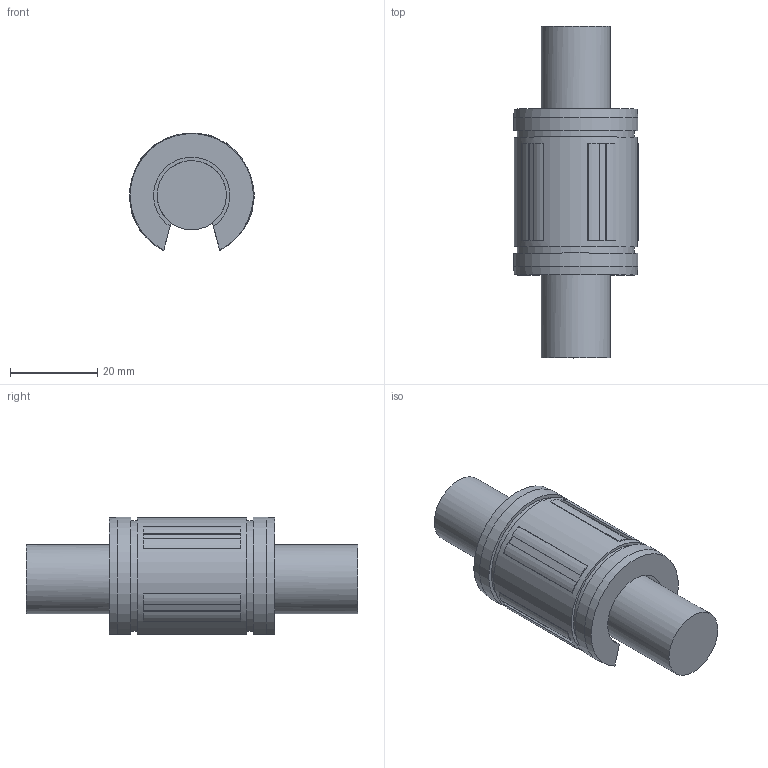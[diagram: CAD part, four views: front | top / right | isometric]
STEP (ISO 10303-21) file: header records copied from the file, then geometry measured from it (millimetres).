
FILE_DESCRIPTION((''),'2;1');
FILE_NAME('D:\STEP\SUPER\LMBS OP\LMBS10_OP.stp','2013-02-14T08:06:21',('user2'),(''),'Autodesk Inventor 2012','Autodesk Inventor 2012','');
FILE_SCHEMA(('AUTOMOTIVE_DESIGN { 1 0 10303 214 1 1 1 1 }'));
Length unit declared in the file: millimetre
Products named in the file (1): LMBS10_OP
Bounding box: 28.63 x 76.2 x 26.98 mm (x, y, z)
Volume: 28336.1 mm3; surface area: 7938.1 mm2
Topology: 1 solids, 1 shells, 74 faces, 187 edges, 119 vertices
Faces by surface type: plane 56, cylinder 16, cone 2
Full cylindrical faces by diameter (mm): 15.875 x1
Entity records: 2244 total; most frequent: DIRECTION 390, CARTESIAN_POINT 385, ORIENTED_EDGE 368, EDGE_CURVE 184, AXIS2_PLACEMENT_3D 135, VECTOR 120, LINE 120, VERTEX_POINT 118
